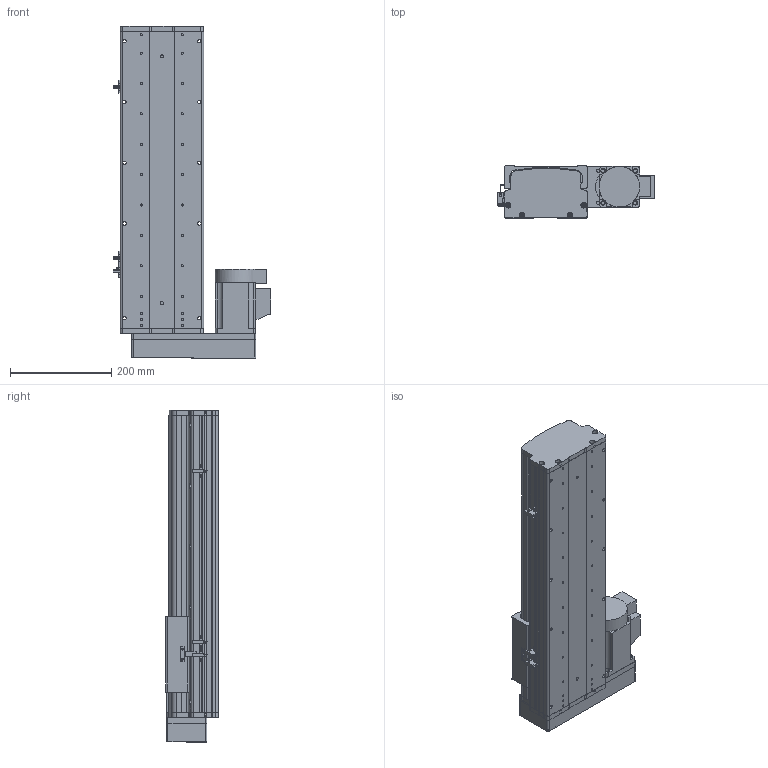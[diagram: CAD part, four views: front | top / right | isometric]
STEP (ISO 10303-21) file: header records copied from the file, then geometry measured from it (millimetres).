
FILE_DESCRIPTION (( 'STEP AP214' ), '1' );
FILE_NAME ('KSD165S-S350-ML-CM .STEP', '2017-10-17T08:45:45', ( '微软用户' ), ( '微软中国' ), 'SwSTEP 2.0', 'SolidWorks 2014', '' );
FILE_SCHEMA (( 'AUTOMOTIVE_DESIGN' ));
Length unit declared in the file: millimetre
Products named in the file (16): KSD165S-S350-ML-CM ; 覜茼え68遵圉猾敕; U倰嫖萇EEㄜSX672; KSD165模组-丝杆上下左右折前端板; HTPA26S5M250-A-H8丝杆用(内径14）; HTPA26S5M250-A-H8 750W萇儂蚚; 165宽模组马达安装板连板左右折丝杆; 165宽模组保护罩左右折; KSD165模组-防尘盖1-350行程-最新版; KSD165模组底板-350行程-最新; 拸秶雄ん750W侜督萇儂; KSD165耀郪-佪裝-滅袉菜-3 -; KSD165耀郪-佪裝-滅袉菜-1; U倰嫖萇假蚾璃; KSD165耀郪-綴傷啣1; KSD165模组-丝杆滑动座-最新版
Assembly tree (19 placements, depth 2):
  KSD165S-S350-ML-CM 
    KSD165模组-丝杆滑动座-最新版
    KSD165耀郪-綴傷啣1
    U倰嫖萇假蚾璃  x3
    KSD165耀郪-佪裝-滅袉菜-1
    KSD165耀郪-佪裝-滅袉菜-3 -
    拸秶雄ん750W侜督萇儂
    KSD165模组底板-350行程-最新
    KSD165模组-防尘盖1-350行程-最新版
    165宽模组保护罩左右折
    165宽模组马达安装板连板左右折丝杆
    HTPA26S5M250-A-H8 750W萇儂蚚
    HTPA26S5M250-A-H8丝杆用(内径14）
    KSD165模组-丝杆上下左右折前端板
    U倰嫖萇EEㄜSX672  x3
    覜茼え68遵圉猾敕
Bounding box: 311.2 x 104 x 655.5 mm (x, y, z)
Volume: 4939626.7 mm3; surface area: 1136649.2 mm2
Topology: 20 solids, 20 shells, 1759 faces, 4982 edges, 3255 vertices
Faces by surface type: cylinder 1123, plane 535, cone 101
Entity records: 57195 total; most frequent: CARTESIAN_POINT 11935, DIRECTION 9273, ORIENTED_EDGE 8652, EDGE_CURVE 4326, AXIS2_PLACEMENT_3D 3625, VERTEX_POINT 2847, CIRCLE 2064, LINE 2023
